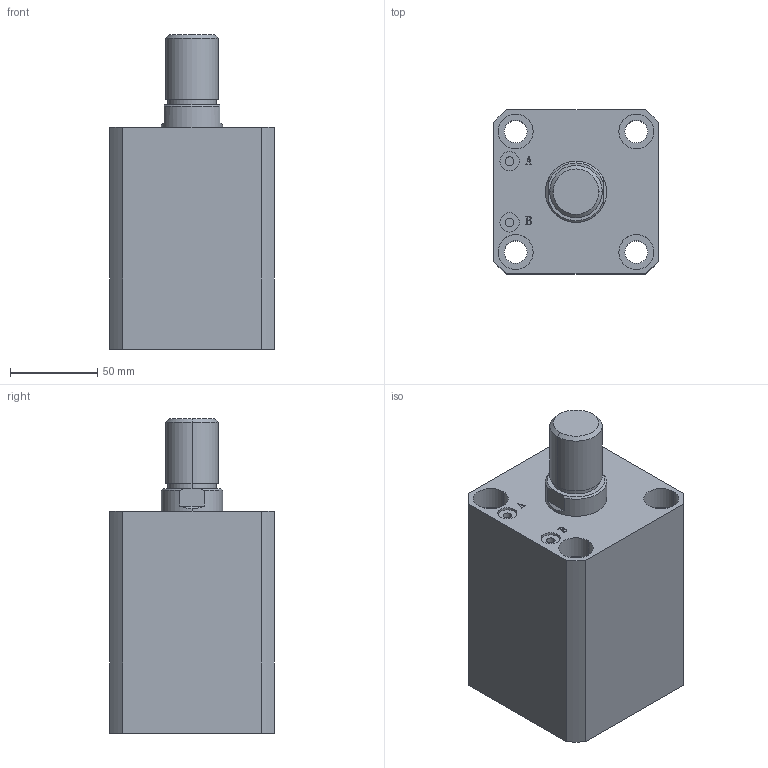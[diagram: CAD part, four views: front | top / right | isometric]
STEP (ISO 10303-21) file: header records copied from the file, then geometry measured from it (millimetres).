
FILE_DESCRIPTION (( 'STEP AP203' ), '1' );
FILE_NAME ('HTB-SDMA63-60W.STEP', '2019-10-08T01:10:47', ( '微软用户' ), ( '微软中国' ), 'SwSTEP 2.0', 'SolidWorks 2012', '' );
FILE_SCHEMA (( 'CONFIG_CONTROL_DESIGN' ));
Length unit declared in the file: millimetre
Products named in the file (3): HTB-SDMA63-60W; HTB-SDMA63-60W活塞杆; HTB-SDMA63-60掛极
Assembly tree (2 placements, depth 2):
  HTB-SDMA63-60W
    HTB-SDMA63-60掛极
    HTB-SDMA63-60W活塞杆
Bounding box: 94 x 94 x 180 mm (x, y, z)
Volume: 932531.8 mm3; surface area: 134149.3 mm2
Topology: 2 solids, 2 shells, 141 faces, 337 edges, 222 vertices
Faces by surface type: plane 67, cylinder 48, bspline 16, torus 6, cone 4
Entity records: 5176 total; most frequent: CARTESIAN_POINT 1593, ORIENTED_EDGE 674, DIRECTION 669, EDGE_CURVE 337, AXIS2_PLACEMENT_3D 242, VERTEX_POINT 222, LINE 185, VECTOR 185
